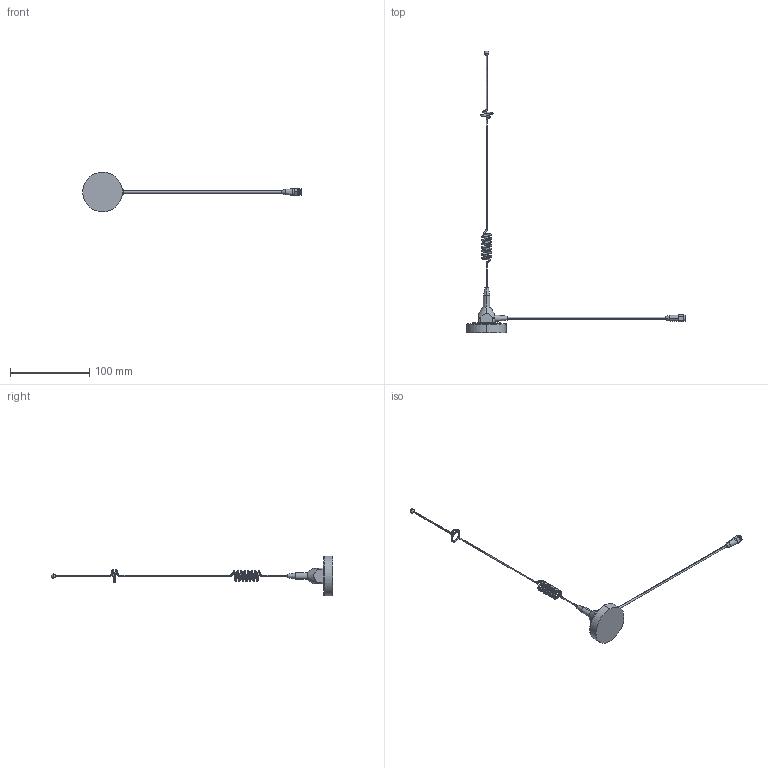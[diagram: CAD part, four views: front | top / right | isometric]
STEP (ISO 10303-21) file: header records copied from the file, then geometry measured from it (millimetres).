
FILE_DESCRIPTION (( 'STEP AP214' ), '1' );
FILE_NAME ('GA.110.301111.STEP', '2020-02-21T03:23:25', ( '' ), ( '' ), 'SwSTEP 2.0', 'SolidWorks 2017', '' );
FILE_SCHEMA (( 'AUTOMOTIVE_DESIGN' ));
Length unit declared in the file: millimetre
Products named in the file (6): 000812F000002A_GA.110 antenna stick; 001311J030002A_Strain Relief Bushing; RG174 Coaxial Cable; 000111F020002A_cover; GA.110.301111; STD SMA(M)ST.Au_default
Assembly tree (5 placements, depth 2):
  GA.110.301111
    000111F020002A_cover
    000812F000002A_GA.110 antenna stick
    RG174 Coaxial Cable
    001311J030002A_Strain Relief Bushing
    STD SMA(M)ST.Au_default
Bounding box: 275.08 x 355 x 50 mm (x, y, z)
Volume: 34555.6 mm3; surface area: 13407.3 mm2
Topology: 5 solids, 5 shells, 122 faces, 287 edges, 184 vertices
Faces by surface type: cylinder 43, plane 31, cone 20, bspline 20, torus 6, sphere 2
Entity records: 11324 total; most frequent: CARTESIAN_POINT 8530, ORIENTED_EDGE 564, DIRECTION 504, EDGE_CURVE 282, AXIS2_PLACEMENT_3D 214, VERTEX_POINT 181, EDGE_LOOP 133, ADVANCED_FACE 122
